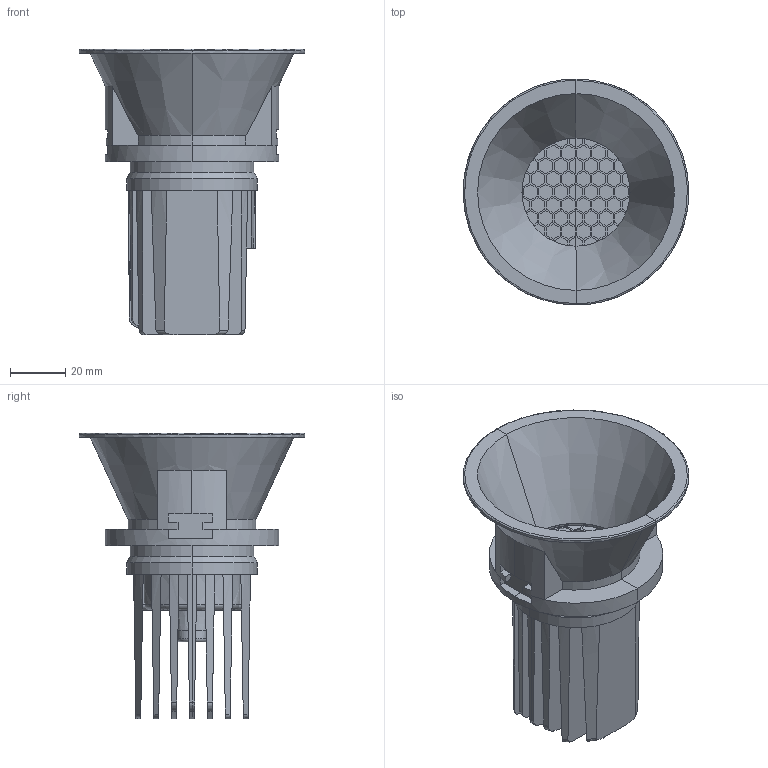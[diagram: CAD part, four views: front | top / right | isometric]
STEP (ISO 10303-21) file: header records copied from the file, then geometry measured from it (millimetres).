
FILE_DESCRIPTION(/* description */ (''),/* implementation_level */ '2;1');
FILE_NAME(/* name */ 'C:\Users\FrancoSartori\Documents\FARO\01_En Proceso\0000_2022\000_PRO\1_TULIPA\03_Publicación\TULIPA SYMETRIC IP20_IP44.stp',/* time_stamp */ '2022-05-27T09:40:02+02:00',/* author */ ('FrancoSartori'),/* organization */ (''),/* preprocessor_version */ 'ST-DEVELOPER v19',/* originating_system */ 'AutoCAD Mechanical',/* authorisation */ '');
FILE_SCHEMA (('AUTOMOTIVE_DESIGN { 1 0 10303 214 3 1 1 }'));
Length unit declared in the file: millimetre
Products named in the file (2): Product; TULIPA SYMETRIC IP20_IP44_ - Lamp-735596-Export
Assembly tree (1 placements, depth 2):
  Product
    TULIPA SYMETRIC IP20_IP44_ - Lamp-735596-Export
Bounding box: 82 x 82 x 103.9 mm (x, y, z)
Volume: 95854.2 mm3; surface area: 67809.6 mm2
Topology: 10 solids, 11 shells, 562 faces, 1669 edges, 1077 vertices
Faces by surface type: plane 431, cylinder 65, cone 40, torus 22, bspline 4
Entity records: 19486 total; most frequent: CARTESIAN_POINT 4447, ORIENTED_EDGE 3142, DIRECTION 2910, EDGE_CURVE 1667, LINE 1300, VECTOR 1300, VERTEX_POINT 1077, AXIS2_PLACEMENT_3D 805
